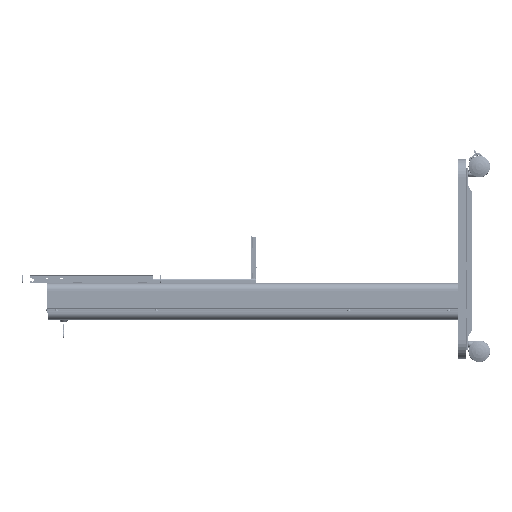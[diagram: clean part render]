
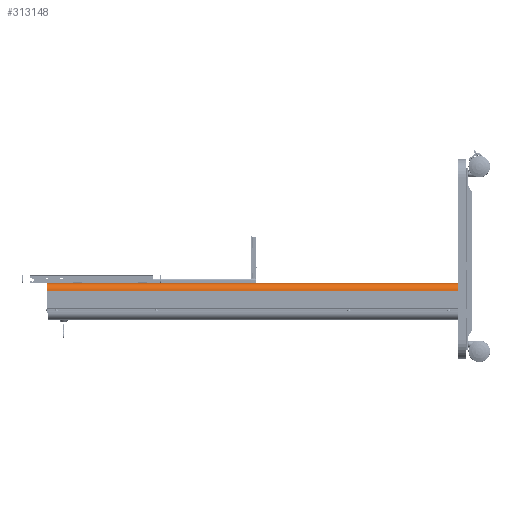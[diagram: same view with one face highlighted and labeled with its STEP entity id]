
A CAD part, left-side view. The second image highlights one B-rep face of the part: STEP entity #313148.
In plain terms, the highlighted cylindrical face has radius 25 mm (diameter 50 mm), a partial arc.
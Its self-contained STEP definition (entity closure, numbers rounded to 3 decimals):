
#1931 = EDGE_CURVE ( 'NONE', #556915, #561916, #293743, .T. ) ;
#2355 = AXIS2_PLACEMENT_3D ( 'NONE', #512006, #290316, #200710 ) ;
#17036 = CARTESIAN_POINT ( 'NONE',  ( -90., 1422., 64. ) ) ;
#17214 = VECTOR ( 'NONE', #102395, 1000. ) ;
#42379 = CARTESIAN_POINT ( 'NONE',  ( -90., 1422., 89. ) ) ;
#61771 = DIRECTION ( 'NONE',  ( 0., 0., -1. ) ) ;
#70424 = EDGE_CURVE ( 'NONE', #459726, #561916, #379150, .T. ) ;
#77056 = CARTESIAN_POINT ( 'NONE',  ( -90., 0., 89. ) ) ;
#77212 = AXIS2_PLACEMENT_3D ( 'NONE', #389011, #122374, #433761 ) ;
#81347 = EDGE_CURVE ( 'NONE', #185798, #459726, #121566, .T. ) ;
#102395 = DIRECTION ( 'NONE',  ( 0., -1., 0. ) ) ;
#121566 = LINE ( 'NONE', #413805, #17214 ) ;
#122374 = DIRECTION ( 'NONE',  ( 0., -1., 0. ) ) ;
#122718 = ORIENTED_EDGE ( 'NONE', *, *, #81347, .F. ) ;
#139630 = ORIENTED_EDGE ( 'NONE', *, *, #1931, .T. ) ;
#168128 = CARTESIAN_POINT ( 'NONE',  ( -115., 0., 64. ) ) ;
#175252 = VECTOR ( 'NONE', #404798, 1000. ) ;
#176015 = EDGE_CURVE ( 'NONE', #185798, #556915, #419962, .T. ) ;
#185798 = VERTEX_POINT ( 'NONE', #42379 ) ;
#200710 = DIRECTION ( 'NONE',  ( 0., 0., -1. ) ) ;
#250232 = AXIS2_PLACEMENT_3D ( 'NONE', #17036, #328324, #61771 ) ;
#290316 = DIRECTION ( 'NONE',  ( 0., -1., 0. ) ) ;
#293743 = LINE ( 'NONE', #492302, #175252 ) ;
#293892 = CARTESIAN_POINT ( 'NONE',  ( -115., 1422., 64. ) ) ;
#313148 = ADVANCED_FACE ( 'NONE', ( #564870 ), #328199, .T. ) ;
#320411 = ORIENTED_EDGE ( 'NONE', *, *, #70424, .F. ) ;
#324995 = ORIENTED_EDGE ( 'NONE', *, *, #176015, .T. ) ;
#328199 = CYLINDRICAL_SURFACE ( 'NONE', #2355, 25. ) ;
#328324 = DIRECTION ( 'NONE',  ( 0., -1., 0. ) ) ;
#371493 = EDGE_LOOP ( 'NONE', ( #320411, #122718, #324995, #139630 ) ) ;
#379150 = CIRCLE ( 'NONE', #77212, 25. ) ;
#389011 = CARTESIAN_POINT ( 'NONE',  ( -90., 0., 64. ) ) ;
#404798 = DIRECTION ( 'NONE',  ( 0., -1., 0. ) ) ;
#413805 = CARTESIAN_POINT ( 'NONE',  ( -90., 1422., 89. ) ) ;
#419962 = CIRCLE ( 'NONE', #250232, 25. ) ;
#433761 = DIRECTION ( 'NONE',  ( 0., 0., -1. ) ) ;
#459726 = VERTEX_POINT ( 'NONE', #77056 ) ;
#492302 = CARTESIAN_POINT ( 'NONE',  ( -115., 1422., 64. ) ) ;
#512006 = CARTESIAN_POINT ( 'NONE',  ( -90., 1422., 64. ) ) ;
#556915 = VERTEX_POINT ( 'NONE', #293892 ) ;
#561916 = VERTEX_POINT ( 'NONE', #168128 ) ;
#564870 = FACE_OUTER_BOUND ( 'NONE', #371493, .T. ) ;
